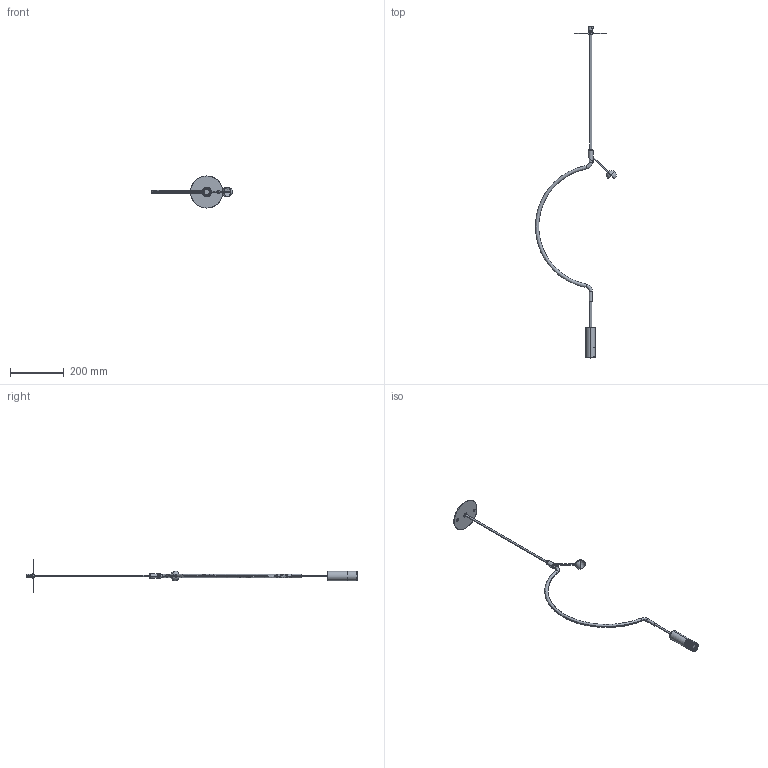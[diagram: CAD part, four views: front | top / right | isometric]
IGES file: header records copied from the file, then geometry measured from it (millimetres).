
Start section: SolidWorks IGES file using analytic representation for surfaces
Global section: file name: \\STORAGE\Tecnico Condiviso\1 FASCICOLI TECNICI\AXO DESIGN\AXO058-LIAISON\AXO01 Liaison - Fascicolo Tecnico 2018-11-20\AXO01.LS01 SO45 1 Luce\1.0A.AXO01.LS01.A1-3D\PENDENTE LIAISON INCASSO P-PER 3D.IGS; native system: SolidWorks 2024; preprocessor: SolidWorks 2024; author: tecnico3; date: 240529.120255; units: millimetre
Bounding box: 301.55 x 1239.27 x 120 mm (x, y, z)
Surface area: 152116.7 mm2 (no closed solid volume)
Topology: 0 solids, 0 shells, 467 faces, 8117 edges, 8050 vertices
Faces by surface type: bspline 242, revolution 225
